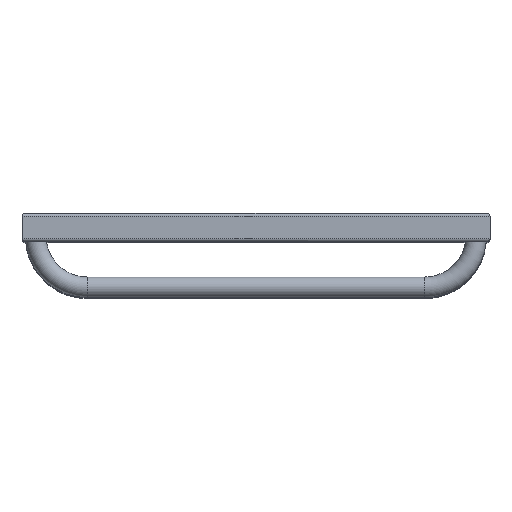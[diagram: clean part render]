
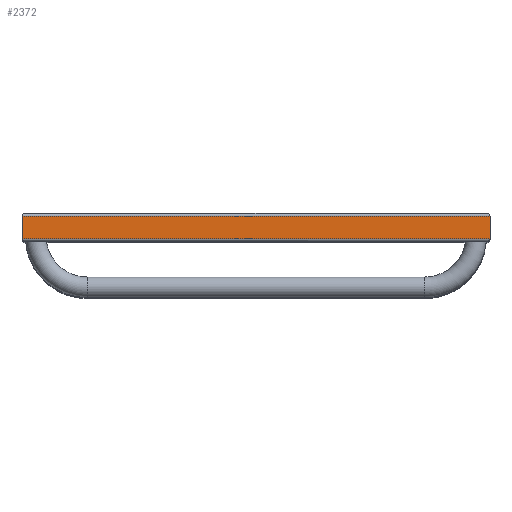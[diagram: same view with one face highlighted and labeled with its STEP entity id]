
A CAD part, top view. The second image highlights one B-rep face of the part: STEP entity #2372.
In plain terms, the highlighted planar face has unit normal (0, 0, 1).
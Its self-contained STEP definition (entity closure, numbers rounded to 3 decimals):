
#243=CARTESIAN_POINT('',(250.,12.,785.0));
#244=VERTEX_POINT('',#243);
#251=CARTESIAN_POINT('',(250.,-12.,785.0));
#252=VERTEX_POINT('',#251);
#253=CARTESIAN_POINT('',(250.,12.,785.0));
#254=DIRECTION('',(0.0,-1.0,0.0));
#255=VECTOR('',#254,24.);
#256=LINE('',#253,#255);
#257=EDGE_CURVE('',#244,#252,#256,.T.);
#2223=CARTESIAN_POINT('',(-250.,12.,785.0));
#2224=VERTEX_POINT('',#2223);
#2225=CARTESIAN_POINT('',(-250.0,12.,785.0));
#2226=DIRECTION('',(1.0,0.0,0.0));
#2227=VECTOR('',#2226,500.);
#2228=LINE('',#2225,#2227);
#2229=EDGE_CURVE('',#2224,#244,#2228,.T.);
#2267=CARTESIAN_POINT('',(-250.,-12.,785.0));
#2268=VERTEX_POINT('',#2267);
#2275=CARTESIAN_POINT('',(-250.,-12.,785.0));
#2276=DIRECTION('',(0.0,1.0,0.0));
#2277=VECTOR('',#2276,24.);
#2278=LINE('',#2275,#2277);
#2279=EDGE_CURVE('',#2268,#2224,#2278,.T.);
#2331=CARTESIAN_POINT('',(250.,-12.,785.0));
#2332=DIRECTION('',(-1.0,0.0,0.0));
#2333=VECTOR('',#2332,500.0);
#2334=LINE('',#2331,#2333);
#2335=EDGE_CURVE('',#252,#2268,#2334,.T.);
#2361=CARTESIAN_POINT('',(235.0,0.,785.0));
#2362=DIRECTION('',(0.0,0.0,1.0));
#2363=DIRECTION('',(1.0,0.0,0.0));
#2364=AXIS2_PLACEMENT_3D('',#2361,#2362,#2363);
#2365=PLANE('',#2364);
#2366=ORIENTED_EDGE('',*,*,#2229,.F.);
#2367=ORIENTED_EDGE('',*,*,#2279,.F.);
#2368=ORIENTED_EDGE('',*,*,#2335,.F.);
#2369=ORIENTED_EDGE('',*,*,#257,.F.);
#2370=EDGE_LOOP('',(#2366,#2367,#2368,#2369));
#2371=FACE_OUTER_BOUND('',#2370,.T.);
#2372=ADVANCED_FACE('',(#2371),#2365,.T.);
